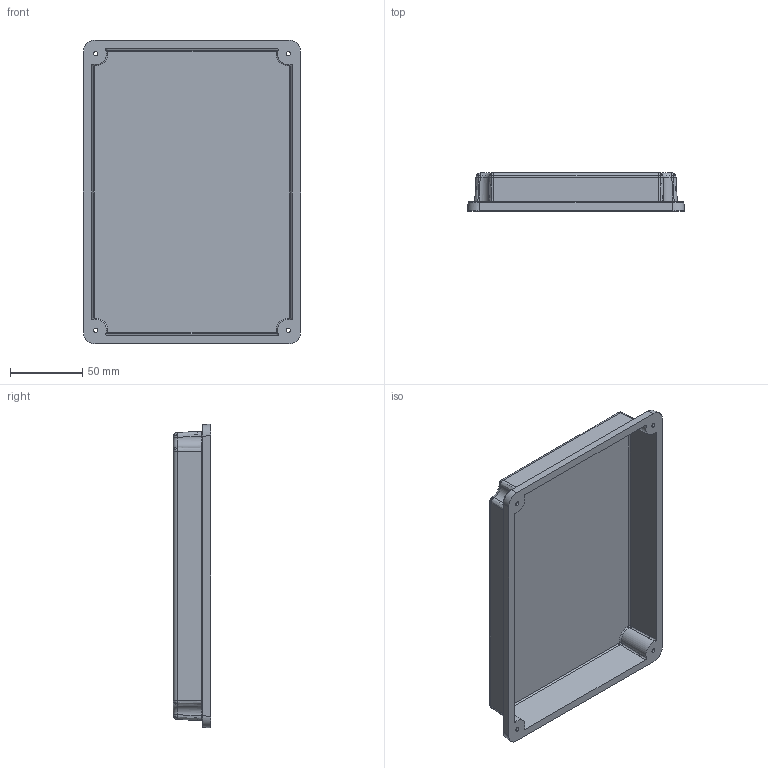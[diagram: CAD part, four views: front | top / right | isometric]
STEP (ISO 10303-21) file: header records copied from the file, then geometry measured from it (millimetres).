
FILE_DESCRIPTION((''),'2;1');
FILE_NAME('BOX200X140X90-TAPA','2022-09-13T10:43:25',('pc'),(''),'CREO PARAMETRIC BY PTC INC, 2018100','CREO PARAMETRIC BY PTC INC, 2018100','');
FILE_SCHEMA(('CONFIG_CONTROL_DESIGN'));
Length unit declared in the file: millimetre
Products named in the file (1): BOX200X140X90-TAPA
Bounding box: 150 x 26 x 210 mm (x, y, z)
Volume: 63522.4 mm3; surface area: 93854 mm2
Topology: 1 solids, 1 shells, 108 faces, 240 edges, 136 vertices
Faces by surface type: cylinder 36, bspline 28, plane 16, sphere 16, torus 12
Entity records: 4186 total; most frequent: CARTESIAN_POINT 1920, ORIENTED_EDGE 480, DIRECTION 448, EDGE_CURVE 240, AXIS2_PLACEMENT_3D 196, VERTEX_POINT 136, EDGE_LOOP 118, CIRCLE 116
